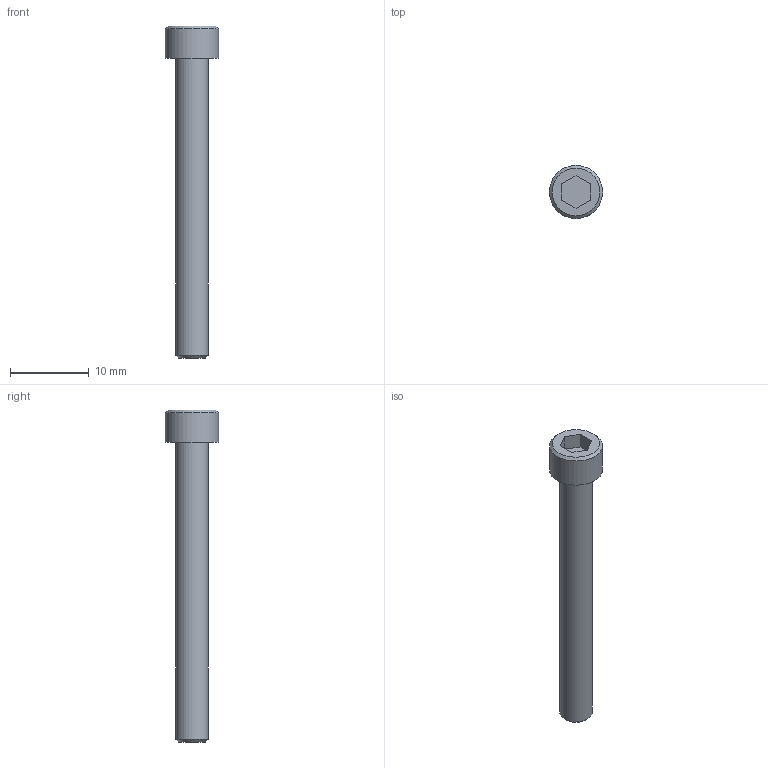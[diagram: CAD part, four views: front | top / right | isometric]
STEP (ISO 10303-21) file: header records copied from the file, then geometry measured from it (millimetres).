
FILE_DESCRIPTION((''),'2;1');
FILE_NAME('C:\Users\Stan\Desktop\import\SHCS 8-32 UNCx1.5.ipt.step','2011-08-18T17:45:34',(''),(''),'Autodesk Inventor 2012','Autodesk Inventor 2012','');
FILE_SCHEMA(('AUTOMOTIVE_DESIGN { 1 0 10303 214 1 1 1 1 }'));
Length unit declared in the file: inch
Products named in the file (1): SHCS 8-32 UNCx1.5
Bounding box: 6.76 x 6.76 x 42.21 mm (x, y, z)
Volume: 643 mm3; surface area: 674.4 mm2
Topology: 1 solids, 1 shells, 14 faces, 28 edges, 18 vertices
Faces by surface type: plane 10, cone 2, cylinder 2
Full cylindrical faces by diameter (mm): 4.166 x1, 6.756 x1
Entity records: 391 total; most frequent: DIRECTION 60, CARTESIAN_POINT 57, ORIENTED_EDGE 48, EDGE_CURVE 24, AXIS2_PLACEMENT_3D 21, EDGE_LOOP 20, VERTEX_POINT 18, VECTOR 18
